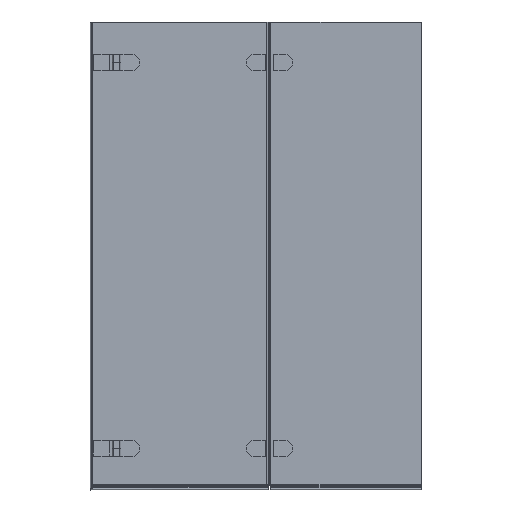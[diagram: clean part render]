
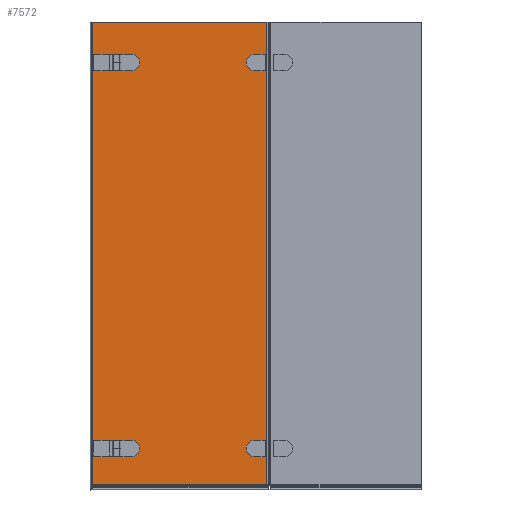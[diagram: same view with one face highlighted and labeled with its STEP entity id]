
A CAD part, front view. The second image highlights one B-rep face of the part: STEP entity #7572.
In plain terms, the highlighted planar face has unit normal (0, -1, 0).
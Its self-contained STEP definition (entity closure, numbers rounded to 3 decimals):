
#141=FACE_BOUND($,#1069,.T.);
#142=FACE_BOUND($,#1070,.T.);
#143=FACE_BOUND($,#1071,.T.);
#144=FACE_BOUND($,#1072,.T.);
#145=FACE_BOUND($,#1073,.T.);
#337=PLANE($,#8158);
#1069=EDGE_LOOP($,(#5775,#5776,#5777,#5778));
#1070=EDGE_LOOP($,(#5779,#5780,#5781,#5782));
#1071=EDGE_LOOP($,(#5783,#5784,#5785,#5786));
#1072=EDGE_LOOP($,(#5787,#5788,#5789,#5790));
#1073=EDGE_LOOP($,(#5791,#5792,#5793,#5794));
#1466=LINE($,#11024,#2180);
#1470=LINE($,#11032,#2184);
#1474=LINE($,#11043,#2188);
#1516=LINE($,#11152,#2230);
#1520=LINE($,#11160,#2234);
#1524=LINE($,#11171,#2238);
#1558=LINE($,#11256,#2272);
#1561=LINE($,#11262,#2275);
#1565=LINE($,#11272,#2279);
#1610=LINE($,#11584,#2324);
#1715=LINE($,#12153,#2429);
#1716=LINE($,#12155,#2430);
#1717=LINE($,#12158,#2431);
#1718=LINE($,#12160,#2432);
#1719=LINE($,#12162,#2433);
#1720=LINE($,#12163,#2434);
#2180=VECTOR($,#8929,52.);
#2184=VECTOR($,#8935,23.);
#2188=VECTOR($,#8947,23.);
#2230=VECTOR($,#9053,52.);
#2234=VECTOR($,#9059,23.);
#2238=VECTOR($,#9071,23.);
#2272=VECTOR($,#9151,52.);
#2275=VECTOR($,#9156,23.);
#2279=VECTOR($,#9168,23.);
#2324=VECTOR($,#9323,560.);
#2429=VECTOR($,#9646,52.);
#2430=VECTOR($,#9647,23.);
#2431=VECTOR($,#9650,23.);
#2432=VECTOR($,#9651,1485.4);
#2433=VECTOR($,#9652,560.);
#2434=VECTOR($,#9653,1485.4);
#2778=CIRCLE($,#7927,26.);
#2790=CIRCLE($,#7964,26.);
#2799=CIRCLE($,#7993,26.);
#2859=CIRCLE($,#8159,26.);
#3115=VERTEX_POINT($,#11022);
#3116=VERTEX_POINT($,#11023);
#3119=VERTEX_POINT($,#11031);
#3121=VERTEX_POINT($,#11037);
#3156=VERTEX_POINT($,#11150);
#3157=VERTEX_POINT($,#11151);
#3160=VERTEX_POINT($,#11159);
#3162=VERTEX_POINT($,#11165);
#3190=VERTEX_POINT($,#11253);
#3191=VERTEX_POINT($,#11255);
#3193=VERTEX_POINT($,#11261);
#3195=VERTEX_POINT($,#11267);
#3275=VERTEX_POINT($,#11581);
#3276=VERTEX_POINT($,#11583);
#3403=VERTEX_POINT($,#12151);
#3404=VERTEX_POINT($,#12152);
#3405=VERTEX_POINT($,#12154);
#3406=VERTEX_POINT($,#12156);
#3407=VERTEX_POINT($,#12159);
#3408=VERTEX_POINT($,#12161);
#3886=EDGE_CURVE($,#3115,#3116,#1466,.T.);
#3890=EDGE_CURVE($,#3116,#3119,#1470,.T.);
#3893=EDGE_CURVE($,#3119,#3121,#2778,.T.);
#3896=EDGE_CURVE($,#3121,#3115,#1474,.T.);
#3948=EDGE_CURVE($,#3156,#3157,#1516,.T.);
#3952=EDGE_CURVE($,#3157,#3160,#1520,.T.);
#3955=EDGE_CURVE($,#3160,#3162,#2790,.T.);
#3958=EDGE_CURVE($,#3162,#3156,#1524,.T.);
#3998=EDGE_CURVE($,#3191,#3190,#1558,.T.);
#4001=EDGE_CURVE($,#3193,#3191,#1561,.T.);
#4004=EDGE_CURVE($,#3195,#3193,#2799,.T.);
#4007=EDGE_CURVE($,#3190,#3195,#1565,.T.);
#4099=EDGE_CURVE($,#3276,#3275,#1610,.T.);
#4284=EDGE_CURVE($,#3403,#3404,#1715,.T.);
#4285=EDGE_CURVE($,#3404,#3405,#1716,.T.);
#4286=EDGE_CURVE($,#3405,#3406,#2859,.T.);
#4287=EDGE_CURVE($,#3406,#3403,#1717,.T.);
#4288=EDGE_CURVE($,#3407,#3275,#1718,.T.);
#4289=EDGE_CURVE($,#3407,#3408,#1719,.T.);
#4290=EDGE_CURVE($,#3408,#3276,#1720,.T.);
#5775=ORIENTED_EDGE($,*,*,#3886,.T.);
#5776=ORIENTED_EDGE($,*,*,#3890,.T.);
#5777=ORIENTED_EDGE($,*,*,#3893,.T.);
#5778=ORIENTED_EDGE($,*,*,#3896,.T.);
#5779=ORIENTED_EDGE($,*,*,#3948,.T.);
#5780=ORIENTED_EDGE($,*,*,#3952,.T.);
#5781=ORIENTED_EDGE($,*,*,#3955,.T.);
#5782=ORIENTED_EDGE($,*,*,#3958,.T.);
#5783=ORIENTED_EDGE($,*,*,#4284,.T.);
#5784=ORIENTED_EDGE($,*,*,#4285,.T.);
#5785=ORIENTED_EDGE($,*,*,#4286,.T.);
#5786=ORIENTED_EDGE($,*,*,#4287,.T.);
#5787=ORIENTED_EDGE($,*,*,#3998,.T.);
#5788=ORIENTED_EDGE($,*,*,#4007,.T.);
#5789=ORIENTED_EDGE($,*,*,#4004,.T.);
#5790=ORIENTED_EDGE($,*,*,#4001,.T.);
#5791=ORIENTED_EDGE($,*,*,#4099,.T.);
#5792=ORIENTED_EDGE($,*,*,#4288,.F.);
#5793=ORIENTED_EDGE($,*,*,#4289,.T.);
#5794=ORIENTED_EDGE($,*,*,#4290,.T.);
#7572=ADVANCED_FACE($,(#141,#142,#143,#144,#145),#337,.T.);
#7927=AXIS2_PLACEMENT_3D($,#11038,#8940,#8941);
#7964=AXIS2_PLACEMENT_3D($,#11166,#9064,#9065);
#7993=AXIS2_PLACEMENT_3D($,#11268,#9162,#9163);
#8158=AXIS2_PLACEMENT_3D($,#12150,#9644,#9645);
#8159=AXIS2_PLACEMENT_3D($,#12157,#9648,#9649);
#8929=DIRECTION($,(0.,0.,-1.));
#8935=DIRECTION($,(-1.,0.,0.));
#8940=DIRECTION('center_axis',(0.,1.,0.));
#8941=DIRECTION('ref_axis',(0.,0.,
1.));
#8947=DIRECTION($,(1.,0.,0.));
#9053=DIRECTION($,(0.,0.,-1.));
#9059=DIRECTION($,(-1.,0.,0.));
#9064=DIRECTION('center_axis',(0.,1.,0.));
#9065=DIRECTION('ref_axis',(0.,0.,
1.));
#9071=DIRECTION($,(1.,0.,0.));
#9151=DIRECTION($,(0.,0.,1.));
#9156=DIRECTION($,(-1.,0.,0.));
#9162=DIRECTION('center_axis',(0.,1.,0.));
#9163=DIRECTION('ref_axis',(0.,0.,
1.));
#9168=DIRECTION($,(1.,0.,0.));
#9323=DIRECTION($,(1.,0.,0.));
#9644=DIRECTION('center_axis',(0.,-1.,0.));
#9645=DIRECTION('ref_axis',(-1.,0.,0.));
#9646=DIRECTION($,(0.,0.,1.));
#9647=DIRECTION($,(1.,0.,0.));
#9648=DIRECTION('center_axis',(0.,1.,0.));
#9649=DIRECTION('ref_axis',(0.,0.,
1.));
#9650=DIRECTION($,(-1.,0.,0.));
#9651=DIRECTION($,(0.,0.,-1.));
#9652=DIRECTION($,(-1.,0.,0.));
#9653=DIRECTION($,(0.,0.,-1.));
#11022=CARTESIAN_POINT('',(721.447,-44.044,1420.944));
#11023=CARTESIAN_POINT('',(721.447,-44.044,1368.944));
#11024=CARTESIAN_POINT($,(721.447,-44.044,1446.944));
#11031=CARTESIAN_POINT('',(698.447,-44.044,1368.944));
#11032=CARTESIAN_POINT($,(720.447,-44.044,1368.944));
#11037=CARTESIAN_POINT('',(698.447,-44.044,1420.944));
#11038=CARTESIAN_POINT('Origin',(698.447,-44.044,1394.944));
#11043=CARTESIAN_POINT($,(731.947,-44.044,1420.944));
#11150=CARTESIAN_POINT('',(721.447,-44.044,180.944));
#11151=CARTESIAN_POINT('',(721.447,-44.044,128.944));
#11152=CARTESIAN_POINT($,(721.447,-44.044,826.944));
#11159=CARTESIAN_POINT('',(698.447,-44.044,128.944));
#11160=CARTESIAN_POINT($,(720.447,-44.044,128.944));
#11165=CARTESIAN_POINT('',(698.447,-44.044,180.944));
#11166=CARTESIAN_POINT('Origin',(698.447,-44.044,154.944));
#11171=CARTESIAN_POINT($,(731.947,-44.044,180.944));
#11253=CARTESIAN_POINT('',(280.447,-44.044,1420.944));
#11255=CARTESIAN_POINT('',(280.447,-44.044,1368.944));
#11256=CARTESIAN_POINT($,(280.447,-44.044,1446.944));
#11261=CARTESIAN_POINT('',(303.447,-44.044,1368.944));
#11262=CARTESIAN_POINT($,(522.947,-44.044,1368.944));
#11267=CARTESIAN_POINT('',(303.447,-44.044,1420.944));
#11268=CARTESIAN_POINT('Origin',(303.447,-44.044,1394.944));
#11272=CARTESIAN_POINT($,(511.447,-44.044,1420.944));
#11581=CARTESIAN_POINT('',(737.447,-44.044,39.544));
#11583=CARTESIAN_POINT('',(177.447,-44.044,39.544));
#11584=CARTESIAN_POINT($,(172.447,-44.044,39.544));
#12150=CARTESIAN_POINT('Origin',(742.447,-44.044,1524.944));
#12151=CARTESIAN_POINT('',(280.447,-44.044,128.944));
#12152=CARTESIAN_POINT('',(280.447,-44.044,180.944));
#12153=CARTESIAN_POINT($,(280.447,-44.044,826.944));
#12154=CARTESIAN_POINT('',(303.447,-44.044,180.944));
#12155=CARTESIAN_POINT($,(511.447,-44.044,180.944));
#12156=CARTESIAN_POINT('',(303.447,-44.044,128.944));
#12157=CARTESIAN_POINT('Origin',(303.447,-44.044,154.944));
#12158=CARTESIAN_POINT($,(522.947,-44.044,128.944));
#12159=CARTESIAN_POINT('',(737.447,-44.044,1524.944));
#12160=CARTESIAN_POINT($,(737.447,-44.044,1524.944));
#12161=CARTESIAN_POINT('',(177.447,-44.044,1524.944));
#12162=CARTESIAN_POINT($,(742.447,-44.044,1524.944));
#12163=CARTESIAN_POINT($,(177.447,-44.044,1524.944));
